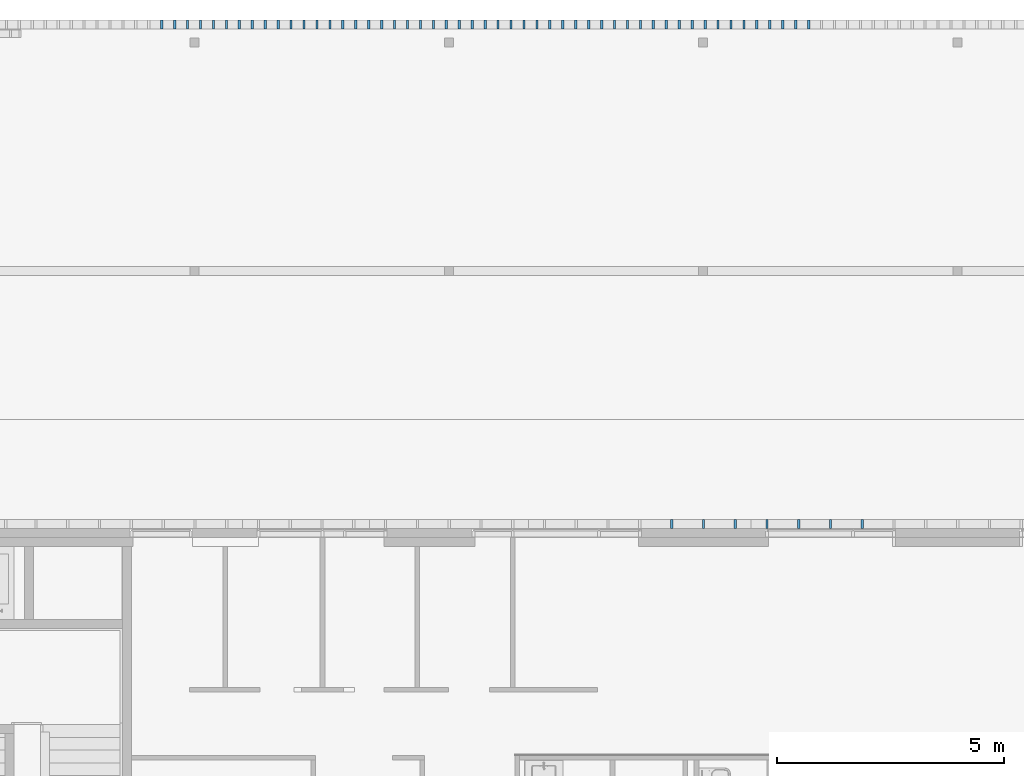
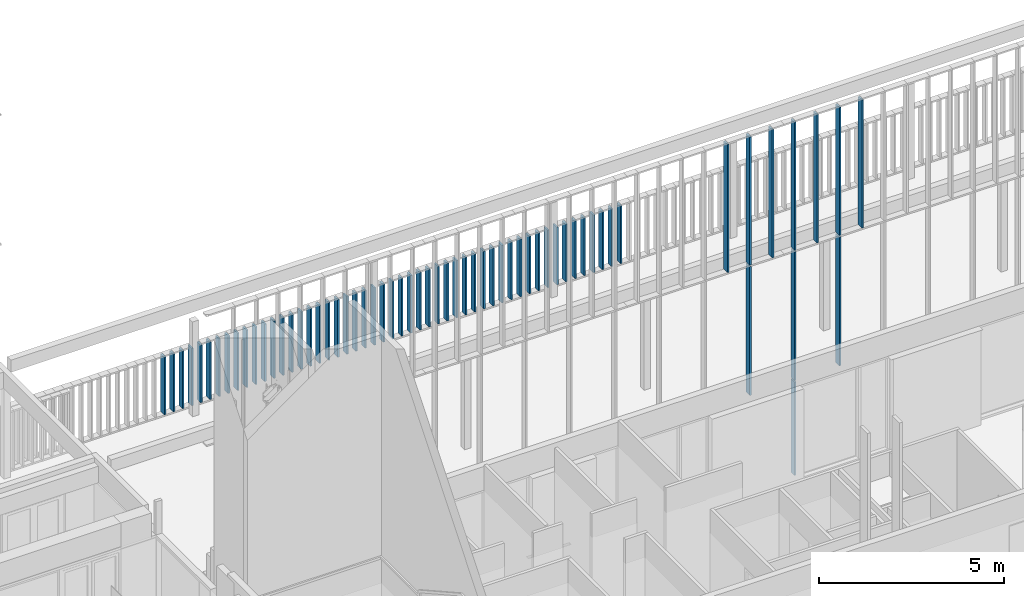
# One storey, part 28 of 240: 62 members, 2 elements without a shape of their own.
"""IFC2X3 building model written with IfcOpenShell, lengths in centimetres."""

from ifc_helpers import new_model, entity, si_unit, converted_unit, derived_unit, direction, frame, origin, origin_2d_with_axis, place, context, subcontext, project, spatial, rectangle, extrude, source, transform, mapped, material, type_object, type_shapes, element, aggregate, save


model = new_model("IFC2X3")

# Units and contexts
model_context = context("Model", 3, precision=0.001, world=origin(), true_north=direction((6.12303176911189e-17, 1.0)))
body_context = subcontext(model_context, "Body", "Model", "MODEL_VIEW")
ifc_project = project(units=[si_unit("LENGTHUNIT", "METRE", prefix="CENTI"), si_unit("AREAUNIT", "SQUARE_METRE"), si_unit("VOLUMEUNIT", "CUBIC_METRE"), converted_unit("PLANEANGLEUNIT", "DEGREE", entity("IfcRatioMeasure", 0.0174532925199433), si_unit("PLANEANGLEUNIT", "RADIAN"), dimensions=[0, 0, 0, 0, 0, 0, 0]), si_unit("MASSUNIT", "GRAM", prefix="KILO"), derived_unit("MASSDENSITYUNIT", [(si_unit("MASSUNIT", "GRAM", prefix="KILO"), 1), (si_unit("LENGTHUNIT", "METRE"), -3)]), si_unit("TIMEUNIT", "SECOND"), si_unit("FREQUENCYUNIT", "HERTZ"), si_unit("THERMODYNAMICTEMPERATUREUNIT", "DEGREE_CELSIUS"), derived_unit("THERMALTRANSMITTANCEUNIT", [(si_unit("MASSUNIT", "GRAM", prefix="KILO"), 1), (si_unit("THERMODYNAMICTEMPERATUREUNIT", "KELVIN"), -1), (si_unit("TIMEUNIT", "SECOND"), -3)]), derived_unit("VOLUMETRICFLOWRATEUNIT", [(si_unit("LENGTHUNIT", "METRE"), 3), (si_unit("TIMEUNIT", "SECOND"), -1)]), si_unit("ELECTRICCURRENTUNIT", "AMPERE"), si_unit("ELECTRICVOLTAGEUNIT", "VOLT"), si_unit("POWERUNIT", "WATT"), si_unit("FORCEUNIT", "NEWTON", prefix="KILO"), si_unit("ILLUMINANCEUNIT", "LUX"), si_unit("LUMINOUSFLUXUNIT", "LUMEN"), si_unit("LUMINOUSINTENSITYUNIT", "CANDELA"), derived_unit("USERDEFINED", [(si_unit("MASSUNIT", "GRAM", prefix="KILO"), -1), (si_unit("LENGTHUNIT", "METRE"), -2), (si_unit("TIMEUNIT", "SECOND"), 3), (si_unit("LUMINOUSFLUXUNIT", "LUMEN"), 1)]), derived_unit("LINEARVELOCITYUNIT", [(si_unit("LENGTHUNIT", "METRE"), 1), (si_unit("TIMEUNIT", "SECOND"), -1)]), si_unit("PRESSUREUNIT", "PASCAL"), derived_unit("USERDEFINED", [(si_unit("LENGTHUNIT", "METRE"), -2), (si_unit("MASSUNIT", "GRAM", prefix="KILO"), 1), (si_unit("TIMEUNIT", "SECOND"), -2)])], contexts=[model_context])

# Site, building, storey
site_placement = place(None, frame((-2781.94577612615, 7442.24238424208, 0.0)))
site = spatial("IfcSite", under=ifc_project, at=site_placement, Name="Default", CompositionType="ELEMENT")
building_placement = place(site_placement, origin())
building = spatial("IfcBuilding", under=site, at=building_placement, CompositionType="ELEMENT")
storey_placement = place(building_placement, origin())
storey = spatial("IfcBuildingStorey", under=building, at=storey_placement, Name="N00 - COO", CompositionType="ELEMENT", Elevation=0.0)

# Curtain wall, members
curtain_wall_type_1 = type_object("IfcCurtainWallType", Name="Mur-rideau:SR-Clôture", PredefinedType="NOTDEFINED")
curtain_wall_1_placement = place(building_placement, origin())
curtain_wall_1 = element("IfcCurtainWall", 1, at=curtain_wall_1_placement, inside=storey, type_object=curtain_wall_type_1, Name="Mur-rideau:SR-Clôture", ObjectType="Mur-rideau:SR-Clôture")
ifc_material = material(Name="Aluminium")
member_type_1 = type_object("IfcMemberType", Name="Epine nord (200x50 mm)", PredefinedType="MEMBER")
shared_shape_1 = source(origin(), body_context, "Body", "SweptSolid", [
    extrude(rectangle(XDim=20.0, YDim=5.0, at=origin_2d_with_axis()), frame((0.0, 0.0, -190.0), z_axis=(0.0, 0.0, 1.0), x_axis=(0.0, -1.0, 0.0)), (0.0, 0.0, 1.0), 190.0),
])
type_shapes(member_type_1, [shared_shape_1])
member_1_placement = place(building_placement, frame((-3142.49987965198, 40.0, 5.0), z_axis=(0.0, 0.0, -1.0), x_axis=(1.0, 0.0, 0.0)))
member_1 = element("IfcMember", 2, at=member_1_placement, type_object=member_type_1, material=ifc_material, Name="Meneau rectangulaire:Epine nord (200x50 mm)", ObjectType="Meneau rectangulaire:Epine nord (200x50 mm)", context=body_context, shape_type="MappedRepresentation", body=[
    mapped(shared_shape_1, transform((0.0, 0.0, 0.0), scale=1.0)),
])
member_2_placement = place(building_placement, frame((-3113.99987965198, 40.0, 5.0), z_axis=(0.0, 0.0, -1.0), x_axis=(1.0, 0.0, 0.0)))
member_2 = element("IfcMember", 3, at=member_2_placement, type_object=member_type_1, material=ifc_material, Name="Meneau rectangulaire:Epine nord (200x50 mm)", ObjectType="Meneau rectangulaire:Epine nord (200x50 mm)", context=body_context, shape_type="MappedRepresentation", body=[
    mapped(shared_shape_1, transform((0.0, 0.0, 0.0), scale=1.0)),
])
member_3_placement = place(building_placement, frame((-3085.49987965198, 40.0, 5.0), z_axis=(0.0, 0.0, -1.0), x_axis=(1.0, 0.0, 0.0)))
member_3 = element("IfcMember", 4, at=member_3_placement, type_object=member_type_1, material=ifc_material, Name="Meneau rectangulaire:Epine nord (200x50 mm)", ObjectType="Meneau rectangulaire:Epine nord (200x50 mm)", context=body_context, shape_type="MappedRepresentation", body=[
    mapped(shared_shape_1, transform((0.0, 0.0, 0.0), scale=1.0)),
])
member_4_placement = place(building_placement, frame((-3056.99987965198, 40.0, 5.0), z_axis=(0.0, 0.0, -1.0), x_axis=(1.0, 0.0, 0.0)))
member_4 = element("IfcMember", 5, at=member_4_placement, type_object=member_type_1, material=ifc_material, Name="Meneau rectangulaire:Epine nord (200x50 mm)", ObjectType="Meneau rectangulaire:Epine nord (200x50 mm)", context=body_context, shape_type="MappedRepresentation", body=[
    mapped(shared_shape_1, transform((0.0, 0.0, 0.0), scale=1.0)),
])
member_5_placement = place(building_placement, frame((-3028.49987965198, 40.0, 5.0), z_axis=(0.0, 0.0, -1.0), x_axis=(1.0, 0.0, 0.0)))
member_5 = element("IfcMember", 6, at=member_5_placement, type_object=member_type_1, material=ifc_material, Name="Meneau rectangulaire:Epine nord (200x50 mm)", ObjectType="Meneau rectangulaire:Epine nord (200x50 mm)", context=body_context, shape_type="MappedRepresentation", body=[
    mapped(shared_shape_1, transform((0.0, 0.0, 0.0), scale=1.0)),
])
member_6_placement = place(building_placement, frame((-2999.99987965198, 40.0, 5.0), z_axis=(0.0, 0.0, -1.0), x_axis=(1.0, 0.0, 0.0)))
member_6 = element("IfcMember", 7, at=member_6_placement, type_object=member_type_1, material=ifc_material, Name="Meneau rectangulaire:Epine nord (200x50 mm)", ObjectType="Meneau rectangulaire:Epine nord (200x50 mm)", context=body_context, shape_type="MappedRepresentation", body=[
    mapped(shared_shape_1, transform((0.0, 0.0, 0.0), scale=1.0)),
])
member_7_placement = place(building_placement, frame((-2971.49987965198, 40.0, 5.0), z_axis=(0.0, 0.0, -1.0), x_axis=(1.0, 0.0, 0.0)))
member_7 = element("IfcMember", 8, at=member_7_placement, type_object=member_type_1, material=ifc_material, Name="Meneau rectangulaire:Epine nord (200x50 mm)", ObjectType="Meneau rectangulaire:Epine nord (200x50 mm)", context=body_context, shape_type="MappedRepresentation", body=[
    mapped(shared_shape_1, transform((0.0, 0.0, 0.0), scale=1.0)),
])
member_8_placement = place(building_placement, frame((-2942.99987965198, 40.0, 5.0), z_axis=(0.0, 0.0, -1.0), x_axis=(1.0, 0.0, 0.0)))
member_8 = element("IfcMember", 9, at=member_8_placement, type_object=member_type_1, material=ifc_material, Name="Meneau rectangulaire:Epine nord (200x50 mm)", ObjectType="Meneau rectangulaire:Epine nord (200x50 mm)", context=body_context, shape_type="MappedRepresentation", body=[
    mapped(shared_shape_1, transform((0.0, 0.0, 0.0), scale=1.0)),
])
member_9_placement = place(building_placement, frame((-2914.49987965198, 40.0, 5.0), z_axis=(0.0, 0.0, -1.0), x_axis=(1.0, 0.0, 0.0)))
member_9 = element("IfcMember", 10, at=member_9_placement, type_object=member_type_1, material=ifc_material, Name="Meneau rectangulaire:Epine nord (200x50 mm)", ObjectType="Meneau rectangulaire:Epine nord (200x50 mm)", context=body_context, shape_type="MappedRepresentation", body=[
    mapped(shared_shape_1, transform((0.0, 0.0, 0.0), scale=1.0)),
])
member_10_placement = place(building_placement, frame((-2885.99987965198, 40.0, 5.0), z_axis=(0.0, 0.0, -1.0), x_axis=(1.0, 0.0, 0.0)))
member_10 = element("IfcMember", 11, at=member_10_placement, type_object=member_type_1, material=ifc_material, Name="Meneau rectangulaire:Epine nord (200x50 mm)", ObjectType="Meneau rectangulaire:Epine nord (200x50 mm)", context=body_context, shape_type="MappedRepresentation", body=[
    mapped(shared_shape_1, transform((0.0, 0.0, 0.0), scale=1.0)),
])
member_11_placement = place(building_placement, frame((-2857.49987965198, 40.0, 5.0), z_axis=(0.0, 0.0, -1.0), x_axis=(1.0, 0.0, 0.0)))
member_11 = element("IfcMember", 12, at=member_11_placement, type_object=member_type_1, material=ifc_material, Name="Meneau rectangulaire:Epine nord (200x50 mm)", ObjectType="Meneau rectangulaire:Epine nord (200x50 mm)", context=body_context, shape_type="MappedRepresentation", body=[
    mapped(shared_shape_1, transform((0.0, 0.0, 0.0), scale=1.0)),
])
member_12_placement = place(building_placement, frame((-2828.99987965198, 40.0, 5.0), z_axis=(0.0, 0.0, -1.0), x_axis=(1.0, 0.0, 0.0)))
member_12 = element("IfcMember", 13, at=member_12_placement, type_object=member_type_1, material=ifc_material, Name="Meneau rectangulaire:Epine nord (200x50 mm)", ObjectType="Meneau rectangulaire:Epine nord (200x50 mm)", context=body_context, shape_type="MappedRepresentation", body=[
    mapped(shared_shape_1, transform((0.0, 0.0, 0.0), scale=1.0)),
])
member_13_placement = place(building_placement, frame((-2800.49987965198, 40.0, 5.0), z_axis=(0.0, 0.0, -1.0), x_axis=(1.0, 0.0, 0.0)))
member_13 = element("IfcMember", 14, at=member_13_placement, type_object=member_type_1, material=ifc_material, Name="Meneau rectangulaire:Epine nord (200x50 mm)", ObjectType="Meneau rectangulaire:Epine nord (200x50 mm)", context=body_context, shape_type="MappedRepresentation", body=[
    mapped(shared_shape_1, transform((0.0, 0.0, 0.0), scale=1.0)),
])
member_14_placement = place(building_placement, frame((-2771.99987965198, 40.0, 5.0), z_axis=(0.0, 0.0, -1.0), x_axis=(1.0, 0.0, 0.0)))
member_14 = element("IfcMember", 15, at=member_14_placement, type_object=member_type_1, material=ifc_material, Name="Meneau rectangulaire:Epine nord (200x50 mm)", ObjectType="Meneau rectangulaire:Epine nord (200x50 mm)", context=body_context, shape_type="MappedRepresentation", body=[
    mapped(shared_shape_1, transform((0.0, 0.0, 0.0), scale=1.0)),
])
member_15_placement = place(building_placement, frame((-2743.49987965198, 40.0, 5.0), z_axis=(0.0, 0.0, -1.0), x_axis=(1.0, 0.0, 0.0)))
member_15 = element("IfcMember", 16, at=member_15_placement, type_object=member_type_1, material=ifc_material, Name="Meneau rectangulaire:Epine nord (200x50 mm)", ObjectType="Meneau rectangulaire:Epine nord (200x50 mm)", context=body_context, shape_type="MappedRepresentation", body=[
    mapped(shared_shape_1, transform((0.0, 0.0, 0.0), scale=1.0)),
])
member_16_placement = place(building_placement, frame((-2714.99987965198, 40.0, 5.0), z_axis=(0.0, 0.0, -1.0), x_axis=(1.0, 0.0, 0.0)))
member_16 = element("IfcMember", 17, at=member_16_placement, type_object=member_type_1, material=ifc_material, Name="Meneau rectangulaire:Epine nord (200x50 mm)", ObjectType="Meneau rectangulaire:Epine nord (200x50 mm)", context=body_context, shape_type="MappedRepresentation", body=[
    mapped(shared_shape_1, transform((0.0, 0.0, 0.0), scale=1.0)),
])
member_17_placement = place(building_placement, frame((-2686.49987965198, 40.0, 5.0), z_axis=(0.0, 0.0, -1.0), x_axis=(1.0, 0.0, 0.0)))
member_17 = element("IfcMember", 18, at=member_17_placement, type_object=member_type_1, material=ifc_material, Name="Meneau rectangulaire:Epine nord (200x50 mm)", ObjectType="Meneau rectangulaire:Epine nord (200x50 mm)", context=body_context, shape_type="MappedRepresentation", body=[
    mapped(shared_shape_1, transform((0.0, 0.0, 0.0), scale=1.0)),
])
member_18_placement = place(building_placement, frame((-2657.99987965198, 40.0, 5.0), z_axis=(0.0, 0.0, -1.0), x_axis=(1.0, 0.0, 0.0)))
member_18 = element("IfcMember", 19, at=member_18_placement, type_object=member_type_1, material=ifc_material, Name="Meneau rectangulaire:Epine nord (200x50 mm)", ObjectType="Meneau rectangulaire:Epine nord (200x50 mm)", context=body_context, shape_type="MappedRepresentation", body=[
    mapped(shared_shape_1, transform((0.0, 0.0, 0.0), scale=1.0)),
])
member_19_placement = place(building_placement, frame((-2629.49987965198, 40.0, 5.0), z_axis=(0.0, 0.0, -1.0), x_axis=(1.0, 0.0, 0.0)))
member_19 = element("IfcMember", 20, at=member_19_placement, type_object=member_type_1, material=ifc_material, Name="Meneau rectangulaire:Epine nord (200x50 mm)", ObjectType="Meneau rectangulaire:Epine nord (200x50 mm)", context=body_context, shape_type="MappedRepresentation", body=[
    mapped(shared_shape_1, transform((0.0, 0.0, 0.0), scale=1.0)),
])
member_20_placement = place(building_placement, frame((-2600.99987965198, 40.0, 5.0), z_axis=(0.0, 0.0, -1.0), x_axis=(1.0, 0.0, 0.0)))
member_20 = element("IfcMember", 21, at=member_20_placement, type_object=member_type_1, material=ifc_material, Name="Meneau rectangulaire:Epine nord (200x50 mm)", ObjectType="Meneau rectangulaire:Epine nord (200x50 mm)", context=body_context, shape_type="MappedRepresentation", body=[
    mapped(shared_shape_1, transform((0.0, 0.0, 0.0), scale=1.0)),
])
member_21_placement = place(building_placement, frame((-2572.49987965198, 40.0, 5.0), z_axis=(0.0, 0.0, -1.0), x_axis=(1.0, 0.0, 0.0)))
member_21 = element("IfcMember", 22, at=member_21_placement, type_object=member_type_1, material=ifc_material, Name="Meneau rectangulaire:Epine nord (200x50 mm)", ObjectType="Meneau rectangulaire:Epine nord (200x50 mm)", context=body_context, shape_type="MappedRepresentation", body=[
    mapped(shared_shape_1, transform((0.0, 0.0, 0.0), scale=1.0)),
])
member_22_placement = place(building_placement, frame((-2543.99987965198, 40.0, 5.0), z_axis=(0.0, 0.0, -1.0), x_axis=(1.0, 0.0, 0.0)))
member_22 = element("IfcMember", 23, at=member_22_placement, type_object=member_type_1, material=ifc_material, Name="Meneau rectangulaire:Epine nord (200x50 mm)", ObjectType="Meneau rectangulaire:Epine nord (200x50 mm)", context=body_context, shape_type="MappedRepresentation", body=[
    mapped(shared_shape_1, transform((0.0, 0.0, 0.0), scale=1.0)),
])
member_23_placement = place(building_placement, frame((-2515.49987965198, 40.0, 5.0), z_axis=(0.0, 0.0, -1.0), x_axis=(1.0, 0.0, 0.0)))
member_23 = element("IfcMember", 24, at=member_23_placement, type_object=member_type_1, material=ifc_material, Name="Meneau rectangulaire:Epine nord (200x50 mm)", ObjectType="Meneau rectangulaire:Epine nord (200x50 mm)", context=body_context, shape_type="MappedRepresentation", body=[
    mapped(shared_shape_1, transform((0.0, 0.0, 0.0), scale=1.0)),
])
member_24_placement = place(building_placement, frame((-2486.99987965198, 40.0, 5.0), z_axis=(0.0, 0.0, -1.0), x_axis=(1.0, 0.0, 0.0)))
member_24 = element("IfcMember", 25, at=member_24_placement, type_object=member_type_1, material=ifc_material, Name="Meneau rectangulaire:Epine nord (200x50 mm)", ObjectType="Meneau rectangulaire:Epine nord (200x50 mm)", context=body_context, shape_type="MappedRepresentation", body=[
    mapped(shared_shape_1, transform((0.0, 0.0, 0.0), scale=1.0)),
])
member_25_placement = place(building_placement, frame((-2458.49987965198, 40.0, 5.0), z_axis=(0.0, 0.0, -1.0), x_axis=(1.0, 0.0, 0.0)))
member_25 = element("IfcMember", 26, at=member_25_placement, type_object=member_type_1, material=ifc_material, Name="Meneau rectangulaire:Epine nord (200x50 mm)", ObjectType="Meneau rectangulaire:Epine nord (200x50 mm)", context=body_context, shape_type="MappedRepresentation", body=[
    mapped(shared_shape_1, transform((0.0, 0.0, 0.0), scale=1.0)),
])
member_26_placement = place(building_placement, frame((-2429.99987965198, 40.0, 5.0), z_axis=(0.0, 0.0, -1.0), x_axis=(1.0, 0.0, 0.0)))
member_26 = element("IfcMember", 27, at=member_26_placement, type_object=member_type_1, material=ifc_material, Name="Meneau rectangulaire:Epine nord (200x50 mm)", ObjectType="Meneau rectangulaire:Epine nord (200x50 mm)", context=body_context, shape_type="MappedRepresentation", body=[
    mapped(shared_shape_1, transform((0.0, 0.0, 0.0), scale=1.0)),
])
member_27_placement = place(building_placement, frame((-2401.49987965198, 40.0, 5.0), z_axis=(0.0, 0.0, -1.0), x_axis=(1.0, 0.0, 0.0)))
member_27 = element("IfcMember", 28, at=member_27_placement, type_object=member_type_1, material=ifc_material, Name="Meneau rectangulaire:Epine nord (200x50 mm)", ObjectType="Meneau rectangulaire:Epine nord (200x50 mm)", context=body_context, shape_type="MappedRepresentation", body=[
    mapped(shared_shape_1, transform((0.0, 0.0, 0.0), scale=1.0)),
])
member_28_placement = place(building_placement, frame((-2372.99987965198, 40.0, 5.0), z_axis=(0.0, 0.0, -1.0), x_axis=(1.0, 0.0, 0.0)))
member_28 = element("IfcMember", 29, at=member_28_placement, type_object=member_type_1, material=ifc_material, Name="Meneau rectangulaire:Epine nord (200x50 mm)", ObjectType="Meneau rectangulaire:Epine nord (200x50 mm)", context=body_context, shape_type="MappedRepresentation", body=[
    mapped(shared_shape_1, transform((0.0, 0.0, 0.0), scale=1.0)),
])
member_29_placement = place(building_placement, frame((-2344.49987965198, 40.0, 5.0), z_axis=(0.0, 0.0, -1.0), x_axis=(1.0, 0.0, 0.0)))
member_29 = element("IfcMember", 30, at=member_29_placement, type_object=member_type_1, material=ifc_material, Name="Meneau rectangulaire:Epine nord (200x50 mm)", ObjectType="Meneau rectangulaire:Epine nord (200x50 mm)", context=body_context, shape_type="MappedRepresentation", body=[
    mapped(shared_shape_1, transform((0.0, 0.0, 0.0), scale=1.0)),
])
member_30_placement = place(building_placement, frame((-2315.99987965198, 40.0, 5.0), z_axis=(0.0, 0.0, -1.0), x_axis=(1.0, 0.0, 0.0)))
member_30 = element("IfcMember", 31, at=member_30_placement, type_object=member_type_1, material=ifc_material, Name="Meneau rectangulaire:Epine nord (200x50 mm)", ObjectType="Meneau rectangulaire:Epine nord (200x50 mm)", context=body_context, shape_type="MappedRepresentation", body=[
    mapped(shared_shape_1, transform((0.0, 0.0, 0.0), scale=1.0)),
])
member_31_placement = place(building_placement, frame((-2287.49987965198, 40.0, 5.0), z_axis=(0.0, 0.0, -1.0), x_axis=(1.0, 0.0, 0.0)))
member_31 = element("IfcMember", 32, at=member_31_placement, type_object=member_type_1, material=ifc_material, Name="Meneau rectangulaire:Epine nord (200x50 mm)", ObjectType="Meneau rectangulaire:Epine nord (200x50 mm)", context=body_context, shape_type="MappedRepresentation", body=[
    mapped(shared_shape_1, transform((0.0, 0.0, 0.0), scale=1.0)),
])
member_32_placement = place(building_placement, frame((-2258.99987965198, 40.0, 5.0), z_axis=(0.0, 0.0, -1.0), x_axis=(1.0, 0.0, 0.0)))
member_32 = element("IfcMember", 33, at=member_32_placement, type_object=member_type_1, material=ifc_material, Name="Meneau rectangulaire:Epine nord (200x50 mm)", ObjectType="Meneau rectangulaire:Epine nord (200x50 mm)", context=body_context, shape_type="MappedRepresentation", body=[
    mapped(shared_shape_1, transform((0.0, 0.0, 0.0), scale=1.0)),
])
member_33_placement = place(building_placement, frame((-2230.49987965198, 40.0, 5.0), z_axis=(0.0, 0.0, -1.0), x_axis=(1.0, 0.0, 0.0)))
member_33 = element("IfcMember", 34, at=member_33_placement, type_object=member_type_1, material=ifc_material, Name="Meneau rectangulaire:Epine nord (200x50 mm)", ObjectType="Meneau rectangulaire:Epine nord (200x50 mm)", context=body_context, shape_type="MappedRepresentation", body=[
    mapped(shared_shape_1, transform((0.0, 0.0, 0.0), scale=1.0)),
])
member_34_placement = place(building_placement, frame((-2201.99987965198, 40.0, 5.0), z_axis=(0.0, 0.0, -1.0), x_axis=(1.0, 0.0, 0.0)))
member_34 = element("IfcMember", 35, at=member_34_placement, type_object=member_type_1, material=ifc_material, Name="Meneau rectangulaire:Epine nord (200x50 mm)", ObjectType="Meneau rectangulaire:Epine nord (200x50 mm)", context=body_context, shape_type="MappedRepresentation", body=[
    mapped(shared_shape_1, transform((0.0, 0.0, 0.0), scale=1.0)),
])
member_35_placement = place(building_placement, frame((-2173.49987965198, 40.0, 5.0), z_axis=(0.0, 0.0, -1.0), x_axis=(1.0, 0.0, 0.0)))
member_35 = element("IfcMember", 36, at=member_35_placement, type_object=member_type_1, material=ifc_material, Name="Meneau rectangulaire:Epine nord (200x50 mm)", ObjectType="Meneau rectangulaire:Epine nord (200x50 mm)", context=body_context, shape_type="MappedRepresentation", body=[
    mapped(shared_shape_1, transform((0.0, 0.0, 0.0), scale=1.0)),
])
member_36_placement = place(building_placement, frame((-2144.99987965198, 40.0, 5.0), z_axis=(0.0, 0.0, -1.0), x_axis=(1.0, 0.0, 0.0)))
member_36 = element("IfcMember", 37, at=member_36_placement, type_object=member_type_1, material=ifc_material, Name="Meneau rectangulaire:Epine nord (200x50 mm)", ObjectType="Meneau rectangulaire:Epine nord (200x50 mm)", context=body_context, shape_type="MappedRepresentation", body=[
    mapped(shared_shape_1, transform((0.0, 0.0, 0.0), scale=1.0)),
])
member_37_placement = place(building_placement, frame((-2116.49987965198, 40.0, 5.0), z_axis=(0.0, 0.0, -1.0), x_axis=(1.0, 0.0, 0.0)))
member_37 = element("IfcMember", 38, at=member_37_placement, type_object=member_type_1, material=ifc_material, Name="Meneau rectangulaire:Epine nord (200x50 mm)", ObjectType="Meneau rectangulaire:Epine nord (200x50 mm)", context=body_context, shape_type="MappedRepresentation", body=[
    mapped(shared_shape_1, transform((0.0, 0.0, 0.0), scale=1.0)),
])
member_38_placement = place(building_placement, frame((-2087.99987965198, 40.0, 5.0), z_axis=(0.0, 0.0, -1.0), x_axis=(1.0, 0.0, 0.0)))
member_38 = element("IfcMember", 39, at=member_38_placement, type_object=member_type_1, material=ifc_material, Name="Meneau rectangulaire:Epine nord (200x50 mm)", ObjectType="Meneau rectangulaire:Epine nord (200x50 mm)", context=body_context, shape_type="MappedRepresentation", body=[
    mapped(shared_shape_1, transform((0.0, 0.0, 0.0), scale=1.0)),
])
member_39_placement = place(building_placement, frame((-2059.49987965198, 40.0, 5.0), z_axis=(0.0, 0.0, -1.0), x_axis=(1.0, 0.0, 0.0)))
member_39 = element("IfcMember", 40, at=member_39_placement, type_object=member_type_1, material=ifc_material, Name="Meneau rectangulaire:Epine nord (200x50 mm)", ObjectType="Meneau rectangulaire:Epine nord (200x50 mm)", context=body_context, shape_type="MappedRepresentation", body=[
    mapped(shared_shape_1, transform((0.0, 0.0, 0.0), scale=1.0)),
])
member_40_placement = place(building_placement, frame((-2030.99987965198, 40.0, 5.0), z_axis=(0.0, 0.0, -1.0), x_axis=(1.0, 0.0, 0.0)))
member_40 = element("IfcMember", 41, at=member_40_placement, type_object=member_type_1, material=ifc_material, Name="Meneau rectangulaire:Epine nord (200x50 mm)", ObjectType="Meneau rectangulaire:Epine nord (200x50 mm)", context=body_context, shape_type="MappedRepresentation", body=[
    mapped(shared_shape_1, transform((0.0, 0.0, 0.0), scale=1.0)),
])
member_41_placement = place(building_placement, frame((-2002.49987965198, 40.0, 5.0), z_axis=(0.0, 0.0, -1.0), x_axis=(1.0, 0.0, 0.0)))
member_41 = element("IfcMember", 42, at=member_41_placement, type_object=member_type_1, material=ifc_material, Name="Meneau rectangulaire:Epine nord (200x50 mm)", ObjectType="Meneau rectangulaire:Epine nord (200x50 mm)", context=body_context, shape_type="MappedRepresentation", body=[
    mapped(shared_shape_1, transform((0.0, 0.0, 0.0), scale=1.0)),
])
member_42_placement = place(building_placement, frame((-1973.99987965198, 40.0, 5.0), z_axis=(0.0, 0.0, -1.0), x_axis=(1.0, 0.0, 0.0)))
member_42 = element("IfcMember", 43, at=member_42_placement, type_object=member_type_1, material=ifc_material, Name="Meneau rectangulaire:Epine nord (200x50 mm)", ObjectType="Meneau rectangulaire:Epine nord (200x50 mm)", context=body_context, shape_type="MappedRepresentation", body=[
    mapped(shared_shape_1, transform((0.0, 0.0, 0.0), scale=1.0)),
])
member_43_placement = place(building_placement, frame((-1945.49987965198, 40.0, 5.0), z_axis=(0.0, 0.0, -1.0), x_axis=(1.0, 0.0, 0.0)))
member_43 = element("IfcMember", 44, at=member_43_placement, type_object=member_type_1, material=ifc_material, Name="Meneau rectangulaire:Epine nord (200x50 mm)", ObjectType="Meneau rectangulaire:Epine nord (200x50 mm)", context=body_context, shape_type="MappedRepresentation", body=[
    mapped(shared_shape_1, transform((0.0, 0.0, 0.0), scale=1.0)),
])
member_44_placement = place(building_placement, frame((-1916.99987965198, 40.0, 5.0), z_axis=(0.0, 0.0, -1.0), x_axis=(1.0, 0.0, 0.0)))
member_44 = element("IfcMember", 45, at=member_44_placement, type_object=member_type_1, material=ifc_material, Name="Meneau rectangulaire:Epine nord (200x50 mm)", ObjectType="Meneau rectangulaire:Epine nord (200x50 mm)", context=body_context, shape_type="MappedRepresentation", body=[
    mapped(shared_shape_1, transform((0.0, 0.0, 0.0), scale=1.0)),
])
member_45_placement = place(building_placement, frame((-1888.49987965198, 40.0, 5.0), z_axis=(0.0, 0.0, -1.0), x_axis=(1.0, 0.0, 0.0)))
member_45 = element("IfcMember", 46, at=member_45_placement, type_object=member_type_1, material=ifc_material, Name="Meneau rectangulaire:Epine nord (200x50 mm)", ObjectType="Meneau rectangulaire:Epine nord (200x50 mm)", context=body_context, shape_type="MappedRepresentation", body=[
    mapped(shared_shape_1, transform((0.0, 0.0, 0.0), scale=1.0)),
])
member_46_placement = place(building_placement, frame((-1859.99987965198, 40.0, 5.0), z_axis=(0.0, 0.0, -1.0), x_axis=(1.0, 0.0, 0.0)))
member_46 = element("IfcMember", 47, at=member_46_placement, type_object=member_type_1, material=ifc_material, Name="Meneau rectangulaire:Epine nord (200x50 mm)", ObjectType="Meneau rectangulaire:Epine nord (200x50 mm)", context=body_context, shape_type="MappedRepresentation", body=[
    mapped(shared_shape_1, transform((0.0, 0.0, 0.0), scale=1.0)),
])
member_47_placement = place(building_placement, frame((-1831.49987965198, 40.0, 5.0), z_axis=(0.0, 0.0, -1.0), x_axis=(1.0, 0.0, 0.0)))
member_47 = element("IfcMember", 48, at=member_47_placement, type_object=member_type_1, material=ifc_material, Name="Meneau rectangulaire:Epine nord (200x50 mm)", ObjectType="Meneau rectangulaire:Epine nord (200x50 mm)", context=body_context, shape_type="MappedRepresentation", body=[
    mapped(shared_shape_1, transform((0.0, 0.0, 0.0), scale=1.0)),
])
member_48_placement = place(building_placement, frame((-1802.99987965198, 40.0, 5.0), z_axis=(0.0, 0.0, -1.0), x_axis=(1.0, 0.0, 0.0)))
member_48 = element("IfcMember", 49, at=member_48_placement, type_object=member_type_1, material=ifc_material, Name="Meneau rectangulaire:Epine nord (200x50 mm)", ObjectType="Meneau rectangulaire:Epine nord (200x50 mm)", context=body_context, shape_type="MappedRepresentation", body=[
    mapped(shared_shape_1, transform((0.0, 0.0, 0.0), scale=1.0)),
])
member_49_placement = place(building_placement, frame((-1774.49987965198, 40.0, 5.0), z_axis=(0.0, 0.0, -1.0), x_axis=(1.0, 0.0, 0.0)))
member_49 = element("IfcMember", 50, at=member_49_placement, type_object=member_type_1, material=ifc_material, Name="Meneau rectangulaire:Epine nord (200x50 mm)", ObjectType="Meneau rectangulaire:Epine nord (200x50 mm)", context=body_context, shape_type="MappedRepresentation", body=[
    mapped(shared_shape_1, transform((0.0, 0.0, 0.0), scale=1.0)),
])
member_50_placement = place(building_placement, frame((-1745.99987965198, 40.0, 5.0), z_axis=(0.0, 0.0, -1.0), x_axis=(1.0, 0.0, 0.0)))
member_50 = element("IfcMember", 51, at=member_50_placement, type_object=member_type_1, material=ifc_material, Name="Meneau rectangulaire:Epine nord (200x50 mm)", ObjectType="Meneau rectangulaire:Epine nord (200x50 mm)", context=body_context, shape_type="MappedRepresentation", body=[
    mapped(shared_shape_1, transform((0.0, 0.0, 0.0), scale=1.0)),
])
member_51_placement = place(building_placement, frame((-1717.49987965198, 40.0, 5.0), z_axis=(0.0, 0.0, -1.0), x_axis=(1.0, 0.0, 0.0)))
member_51 = element("IfcMember", 52, at=member_51_placement, type_object=member_type_1, material=ifc_material, Name="Meneau rectangulaire:Epine nord (200x50 mm)", ObjectType="Meneau rectangulaire:Epine nord (200x50 mm)", context=body_context, shape_type="MappedRepresentation", body=[
    mapped(shared_shape_1, transform((0.0, 0.0, 0.0), scale=1.0)),
])
aggregate(curtain_wall_1, [member_1, member_2, member_3, member_4, member_5, member_6, member_7, member_8, member_9, member_10, member_11, member_12, member_13, member_14, member_15, member_16, member_17, member_18, member_19, member_20, member_21, member_22, member_23, member_24, member_25, member_26, member_27, member_28, member_29, member_30, member_31, member_32, member_33, member_34, member_35, member_36, member_37, member_38, member_39, member_40, member_41, member_42, member_43, member_44, member_45, member_46, member_47, member_48, member_49, member_50, member_51])

curtain_wall_type_2 = type_object("IfcCurtainWallType", Name="Mur-rideau:Epines - 200x30mm", PredefinedType="NOTDEFINED")
curtain_wall_2_placement = place(storey_placement, origin())
curtain_wall_2 = element("IfcCurtainWall", 53, at=curtain_wall_2_placement, inside=storey, type_object=curtain_wall_type_2, Name="Mur-rideau:Epines - 200x30mm", ObjectType="Mur-rideau:Epines - 200x30mm")
member_type_2 = type_object("IfcMemberType", Name="200x50 mm nord", PredefinedType="MEMBER")
shared_shape_2 = source(origin(), body_context, "Body", "SweptSolid", [
    extrude(rectangle(XDim=20.0, YDim=5.0, at=origin_2d_with_axis()), frame((0.0, 0.0, -423.0), z_axis=(0.0, 0.0, 1.0), x_axis=(0.0, -1.0, 0.0)), (0.0, 0.0, 1.0), 423.000000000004),
])
type_shapes(member_type_2, [shared_shape_2])
member_52_placement = place(storey_placement, frame((-1809.29988284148, -1060.0, 748.0), z_axis=(0.0, 0.0, -1.0), x_axis=(1.0, 0.0, 0.0)))
member_52 = element("IfcMember", 54, at=member_52_placement, type_object=member_type_2, material=ifc_material, Name="Meneau rectangulaire:200x50 mm nord", ObjectType="Meneau rectangulaire:200x50 mm nord", context=body_context, shape_type="MappedRepresentation", body=[
    mapped(shared_shape_2, transform((0.0, 0.0, 0.0), scale=1.0)),
])
member_53_placement = place(storey_placement, frame((-1669.29988284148, -1060.0, 748.0), z_axis=(0.0, 0.0, -1.0), x_axis=(1.0, 0.0, 0.0)))
member_53 = element("IfcMember", 55, at=member_53_placement, type_object=member_type_2, material=ifc_material, Name="Meneau rectangulaire:200x50 mm nord", ObjectType="Meneau rectangulaire:200x50 mm nord", context=body_context, shape_type="MappedRepresentation", body=[
    mapped(shared_shape_2, transform((0.0, 0.0, 0.0), scale=1.0)),
])
member_54_placement = place(storey_placement, frame((-1949.29988284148, -1060.0, 748.0), z_axis=(0.0, 0.0, -1.0), x_axis=(1.0, 0.0, 0.0)))
member_54 = element("IfcMember", 56, at=member_54_placement, type_object=member_type_2, material=ifc_material, Name="Meneau rectangulaire:200x50 mm nord", ObjectType="Meneau rectangulaire:200x50 mm nord", context=body_context, shape_type="MappedRepresentation", body=[
    mapped(shared_shape_2, transform((0.0, 0.0, 0.0), scale=1.0)),
])
member_55_placement = place(storey_placement, frame((-1599.29988284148, -1060.0, 748.0), z_axis=(0.0, 0.0, -1.0), x_axis=(1.0, 0.0, 0.0)))
member_55 = element("IfcMember", 57, at=member_55_placement, type_object=member_type_2, material=ifc_material, Name="Meneau rectangulaire:200x50 mm nord", ObjectType="Meneau rectangulaire:200x50 mm nord", context=body_context, shape_type="MappedRepresentation", body=[
    mapped(shared_shape_2, transform((0.0, 0.0, 0.0), scale=1.0)),
])
member_56_placement = place(storey_placement, frame((-1739.29988284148, -1060.0, 748.0), z_axis=(0.0, 0.0, -1.0), x_axis=(1.0, 0.0, 0.0)))
member_56 = element("IfcMember", 58, at=member_56_placement, type_object=member_type_2, material=ifc_material, Name="Meneau rectangulaire:200x50 mm nord", ObjectType="Meneau rectangulaire:200x50 mm nord", context=body_context, shape_type="MappedRepresentation", body=[
    mapped(shared_shape_2, transform((0.0, 0.0, 0.0), scale=1.0)),
])
member_57_placement = place(storey_placement, frame((-1879.29988284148, -1060.0, 748.0), z_axis=(0.0, 0.0, -1.0), x_axis=(1.0, 0.0, 0.0)))
member_57 = element("IfcMember", 59, at=member_57_placement, type_object=member_type_2, material=ifc_material, Name="Meneau rectangulaire:200x50 mm nord", ObjectType="Meneau rectangulaire:200x50 mm nord", context=body_context, shape_type="MappedRepresentation", body=[
    mapped(shared_shape_2, transform((0.0, 0.0, 0.0), scale=1.0)),
])
member_58_placement = place(storey_placement, frame((-2019.29988284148, -1060.0, 748.0), z_axis=(0.0, 0.0, -1.0), x_axis=(1.0, 0.0, 0.0)))
member_58 = element("IfcMember", 60, at=member_58_placement, type_object=member_type_2, material=ifc_material, Name="Meneau rectangulaire:200x50 mm nord", ObjectType="Meneau rectangulaire:200x50 mm nord", context=body_context, shape_type="MappedRepresentation", body=[
    mapped(shared_shape_2, transform((0.0, 0.0, 0.0), scale=1.0)),
])
member_type_3 = type_object("IfcMemberType", Name="200x50 mm nord", PredefinedType="MEMBER")
shared_shape_3 = source(origin(), body_context, "Body", "SweptSolid", [
    extrude(rectangle(XDim=20.0, YDim=5.0, at=origin_2d_with_axis()), frame((0.0, 0.0, -425.0), z_axis=(0.0, 0.0, 1.0), x_axis=(0.0, -1.0, 0.0)), (0.0, 0.0, 1.0), 425.0),
])
type_shapes(member_type_3, [shared_shape_3])
member_59_placement = place(storey_placement, frame((-1809.29988284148, -1060.0, 318.0), z_axis=(0.0, 0.0, -1.0), x_axis=(1.0, 0.0, 0.0)))
member_59 = element("IfcMember", 61, at=member_59_placement, type_object=member_type_3, material=ifc_material, Name="Meneau rectangulaire:200x50 mm nord", ObjectType="Meneau rectangulaire:200x50 mm nord", context=body_context, shape_type="MappedRepresentation", body=[
    mapped(shared_shape_3, transform((0.0, 0.0, 0.0), scale=1.0)),
])
member_60_placement = place(storey_placement, frame((-1669.29988284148, -1060.0, 318.0), z_axis=(0.0, 0.0, -1.0), x_axis=(1.0, 0.0, 0.0)))
member_60 = element("IfcMember", 62, at=member_60_placement, type_object=member_type_3, material=ifc_material, Name="Meneau rectangulaire:200x50 mm nord", ObjectType="Meneau rectangulaire:200x50 mm nord", context=body_context, shape_type="MappedRepresentation", body=[
    mapped(shared_shape_3, transform((0.0, 0.0, 0.0), scale=1.0)),
])
member_61_placement = place(storey_placement, frame((-1949.29988284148, -1060.0, 318.0), z_axis=(0.0, 0.0, -1.0), x_axis=(1.0, 0.0, 0.0)))
member_61 = element("IfcMember", 63, at=member_61_placement, type_object=member_type_3, material=ifc_material, Name="Meneau rectangulaire:200x50 mm nord", ObjectType="Meneau rectangulaire:200x50 mm nord", context=body_context, shape_type="MappedRepresentation", body=[
    mapped(shared_shape_3, transform((0.0, 0.0, 0.0), scale=1.0)),
])
member_type_4 = type_object("IfcMemberType", Name="200x50 mm nord", PredefinedType="MEMBER")
shared_shape_4 = source(origin(), body_context, "Body", "SweptSolid", [
    extrude(rectangle(XDim=20.0, YDim=5.0, at=origin_2d_with_axis()), frame((0.0, 0.0, -308.0), z_axis=(0.0, 0.0, 1.0), x_axis=(0.0, -1.0, 0.0)), (0.0, 0.0, 1.0), 308.0),
])
type_shapes(member_type_4, [shared_shape_4])
member_62_placement = place(storey_placement, frame((-1809.29988284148, -1060.0, 5.0), z_axis=(0.0, 0.0, -1.0), x_axis=(1.0, 0.0, 0.0)))
member_62 = element("IfcMember", 64, at=member_62_placement, type_object=member_type_4, material=ifc_material, Name="Meneau rectangulaire:200x50 mm nord", ObjectType="Meneau rectangulaire:200x50 mm nord", context=body_context, shape_type="MappedRepresentation", body=[
    mapped(shared_shape_4, transform((0.0, 0.0, 0.0), scale=1.0)),
])
aggregate(curtain_wall_2, [member_52, member_59, member_62, member_60, member_53, member_54, member_61, member_55, member_56, member_57, member_58])

save(model, "model.ifc")
